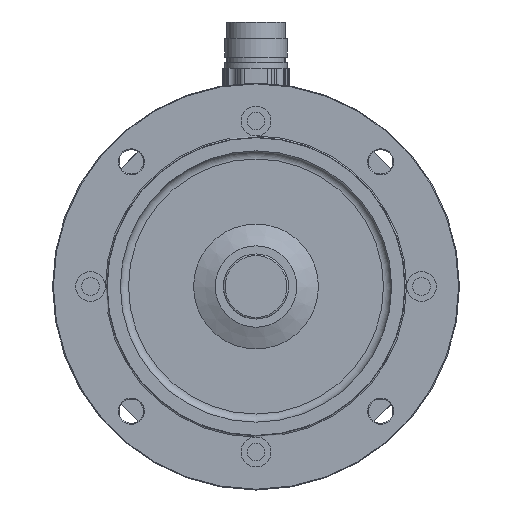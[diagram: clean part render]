
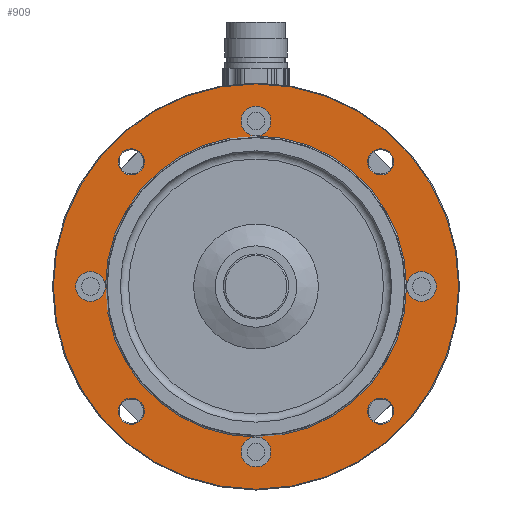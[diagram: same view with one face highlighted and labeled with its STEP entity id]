
A CAD part, front view. The second image highlights one B-rep face of the part: STEP entity #909.
In plain terms, the highlighted planar face has unit normal (0, -1, 0).
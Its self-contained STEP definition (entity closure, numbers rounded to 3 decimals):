
#387=PLANE('',#4568);
#472=FACE_OUTER_BOUND('',#1719,.T.);
#909=ADVANCED_FACE('',(#1379,#1380,#1381,#1382,#472,#1383),#387,.T.);
#1379=FACE_BOUND('',#1715,.T.);
#1380=FACE_BOUND('',#1716,.T.);
#1381=FACE_BOUND('',#1717,.T.);
#1382=FACE_BOUND('',#1718,.T.);
#1383=FACE_BOUND('',#1720,.T.);
#1715=EDGE_LOOP('',(#2261));
#1716=EDGE_LOOP('',(#2262));
#1717=EDGE_LOOP('',(#2263));
#1718=EDGE_LOOP('',(#2264));
#1719=EDGE_LOOP('',(#2265));
#1720=EDGE_LOOP('',(#2266,#2267,#2268,#2269,#2270,#2271,#2272,#2273));
#2261=ORIENTED_EDGE('',*,*,#3667,.T.);
#2262=ORIENTED_EDGE('',*,*,#3668,.T.);
#2263=ORIENTED_EDGE('',*,*,#3669,.T.);
#2264=ORIENTED_EDGE('',*,*,#3670,.T.);
#2265=ORIENTED_EDGE('',*,*,#3671,.T.);
#2266=ORIENTED_EDGE('',*,*,#3672,.T.);
#2267=ORIENTED_EDGE('',*,*,#3673,.T.);
#2268=ORIENTED_EDGE('',*,*,#3674,.T.);
#2269=ORIENTED_EDGE('',*,*,#3675,.T.);
#2270=ORIENTED_EDGE('',*,*,#3676,.T.);
#2271=ORIENTED_EDGE('',*,*,#3677,.T.);
#2272=ORIENTED_EDGE('',*,*,#3678,.T.);
#2273=ORIENTED_EDGE('',*,*,#3679,.T.);
#3261=VERTEX_POINT('',#6795);
#3262=VERTEX_POINT('',#6797);
#3263=VERTEX_POINT('',#6799);
#3264=VERTEX_POINT('',#6801);
#3265=VERTEX_POINT('',#6803);
#3266=VERTEX_POINT('',#6805);
#3267=VERTEX_POINT('',#6807);
#3268=VERTEX_POINT('',#6810);
#3269=VERTEX_POINT('',#6813);
#3667=EDGE_CURVE('',#3261,#3261,#4164,.T.);
#3668=EDGE_CURVE('',#3262,#3262,#4165,.T.);
#3669=EDGE_CURVE('',#3263,#3263,#4166,.T.);
#3670=EDGE_CURVE('',#3264,#3264,#4167,.T.);
#3671=EDGE_CURVE('',#3265,#3265,#4168,.T.);
#3672=EDGE_CURVE('',#3266,#3266,#4169,.T.);
#3673=EDGE_CURVE('',#3266,#3267,#4170,.T.);
#3674=EDGE_CURVE('',#3267,#3267,#4171,.T.);
#3675=EDGE_CURVE('',#3267,#3268,#4172,.T.);
#3676=EDGE_CURVE('',#3268,#3268,#4173,.T.);
#3677=EDGE_CURVE('',#3268,#3269,#4174,.T.);
#3678=EDGE_CURVE('',#3269,#3269,#4175,.T.);
#3679=EDGE_CURVE('',#3269,#3266,#4176,.T.);
#4164=CIRCLE('',#4555,4.8);
#4165=CIRCLE('',#4556,4.8);
#4166=CIRCLE('',#4557,4.8);
#4167=CIRCLE('',#4558,4.8);
#4168=CIRCLE('',#4559,74.7);
#4169=CIRCLE('',#4560,5.5);
#4170=CIRCLE('',#4561,55.5);
#4171=CIRCLE('',#4562,5.5);
#4172=CIRCLE('',#4563,55.5);
#4173=CIRCLE('',#4564,5.5);
#4174=CIRCLE('',#4565,55.5);
#4175=CIRCLE('',#4566,5.5);
#4176=CIRCLE('',#4567,55.5);
#4555=AXIS2_PLACEMENT_3D('',#6794,#5283,#5284);
#4556=AXIS2_PLACEMENT_3D('',#6796,#5285,#5286);
#4557=AXIS2_PLACEMENT_3D('',#6798,#5287,#5288);
#4558=AXIS2_PLACEMENT_3D('',#6800,#5289,#5290);
#4559=AXIS2_PLACEMENT_3D('',#6802,#5291,#5292);
#4560=AXIS2_PLACEMENT_3D('',#6804,#5293,#5294);
#4561=AXIS2_PLACEMENT_3D('',#6806,#5295,#5296);
#4562=AXIS2_PLACEMENT_3D('',#6808,#5297,#5298);
#4563=AXIS2_PLACEMENT_3D('',#6809,#5299,#5300);
#4564=AXIS2_PLACEMENT_3D('',#6811,#5301,#5302);
#4565=AXIS2_PLACEMENT_3D('',#6812,#5303,#5304);
#4566=AXIS2_PLACEMENT_3D('',#6814,#5305,#5306);
#4567=AXIS2_PLACEMENT_3D('',#6815,#5307,#5308);
#4568=AXIS2_PLACEMENT_3D('',#6816,#5309,#5310);
#5283=DIRECTION('',(0.,1.,0.));
#5284=DIRECTION('',(0.,0.,-1.));
#5285=DIRECTION('',(0.,1.,0.));
#5286=DIRECTION('',(0.,0.,-1.));
#5287=DIRECTION('',(0.,1.,0.));
#5288=DIRECTION('',(0.,0.,-1.));
#5289=DIRECTION('',(0.,1.,0.));
#5290=DIRECTION('',(0.,0.,-1.));
#5291=DIRECTION('',(0.,-1.,0.));
#5292=DIRECTION('',(0.,0.,-1.));
#5293=DIRECTION('',(0.,1.,0.));
#5294=DIRECTION('',(0.,0.,-1.));
#5295=DIRECTION('',(0.,1.,0.));
#5296=DIRECTION('',(0.,0.,-1.));
#5297=DIRECTION('',(0.,1.,0.));
#5298=DIRECTION('',(-1.,0.,0.));
#5299=DIRECTION('',(0.,1.,0.));
#5300=DIRECTION('',(0.,0.,-1.));
#5301=DIRECTION('',(0.,1.,0.));
#5302=DIRECTION('',(0.,0.,1.));
#5303=DIRECTION('',(0.,1.,0.));
#5304=DIRECTION('',(0.,0.,-1.));
#5305=DIRECTION('',(0.,1.,0.));
#5306=DIRECTION('',(1.,0.,0.));
#5307=DIRECTION('',(0.,1.,0.));
#5308=DIRECTION('',(0.,0.,-1.));
#5309=DIRECTION('',(0.,-1.,0.));
#5310=DIRECTION('',(0.,0.,-1.));
#6794=CARTESIAN_POINT('',(45.962,0.,-45.962));
#6795=CARTESIAN_POINT('',(45.962,0.,-50.762));
#6796=CARTESIAN_POINT('',(-45.962,0.,45.962));
#6797=CARTESIAN_POINT('',(-45.962,0.,41.162));
#6798=CARTESIAN_POINT('',(45.962,0.,45.962));
#6799=CARTESIAN_POINT('',(45.962,0.,41.162));
#6800=CARTESIAN_POINT('',(-45.962,0.,-45.962));
#6801=CARTESIAN_POINT('',(-45.962,0.,-50.762));
#6802=CARTESIAN_POINT('',(0.,0.,0.));
#6803=CARTESIAN_POINT('',(0.,0.,-74.7));
#6804=CARTESIAN_POINT('',(0.,0.,-61.));
#6805=CARTESIAN_POINT('',(0.,0.,-55.5));
#6806=CARTESIAN_POINT('',(0.,0.,0.));
#6807=CARTESIAN_POINT('',(-55.5,0.,0.));
#6808=CARTESIAN_POINT('',(-61.,0.,0.));
#6809=CARTESIAN_POINT('',(0.,0.,0.));
#6810=CARTESIAN_POINT('',(0.,0.,55.5));
#6811=CARTESIAN_POINT('',(0.,0.,61.));
#6812=CARTESIAN_POINT('',(0.,0.,0.));
#6813=CARTESIAN_POINT('',(55.5,0.,0.));
#6814=CARTESIAN_POINT('',(61.,0.,0.));
#6815=CARTESIAN_POINT('',(0.,0.,0.));
#6816=CARTESIAN_POINT('',(0.,0.,0.));
